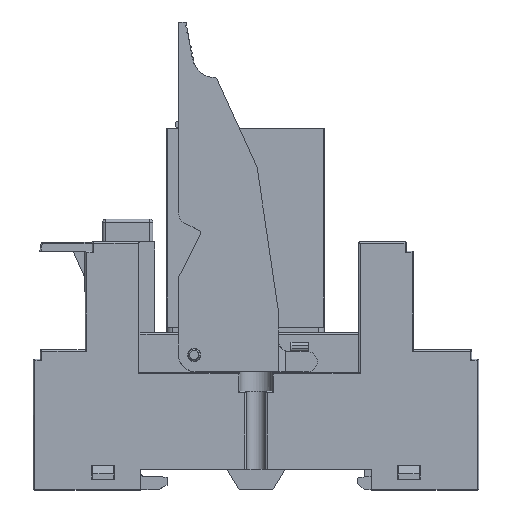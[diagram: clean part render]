
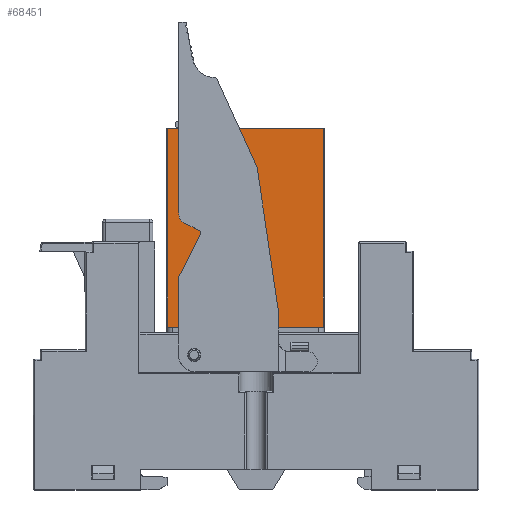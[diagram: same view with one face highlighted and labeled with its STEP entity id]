
A CAD part, top view. The second image highlights one B-rep face of the part: STEP entity #68451.
In plain terms, the highlighted planar face has unit normal (0, 0, 1).
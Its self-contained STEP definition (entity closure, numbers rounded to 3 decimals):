
#538 = EDGE_LOOP ( 'NONE', ( #17843, #36295, #92468, #67705 ) ) ;
#3276 = VECTOR ( 'NONE', #96612, 1000. ) ;
#5055 = VERTEX_POINT ( 'NONE', #64532 ) ;
#6258 = VERTEX_POINT ( 'NONE', #9093 ) ;
#8640 = EDGE_CURVE ( 'NONE', #86713, #57671, #10098, .T. ) ;
#9093 = CARTESIAN_POINT ( 'NONE',  ( 13.6, 34.966, 10.449 ) ) ;
#10098 = LINE ( 'NONE', #69839, #23008 ) ;
#10328 = LINE ( 'NONE', #71513, #29224 ) ;
#13256 = CARTESIAN_POINT ( 'NONE',  ( -13.2, 0.966, 10.449 ) ) ;
#14096 = DIRECTION ( 'NONE',  ( 0., -1., 0. ) ) ;
#15171 = VECTOR ( 'NONE', #55980, 1000. ) ;
#16193 = VERTEX_POINT ( 'NONE', #35027 ) ;
#16474 = VECTOR ( 'NONE', #66522, 1000. ) ;
#17843 = ORIENTED_EDGE ( 'NONE', *, *, #21060, .F. ) ;
#20603 = LINE ( 'NONE', #13256, #60096 ) ;
#21060 = EDGE_CURVE ( 'NONE', #6258, #42312, #74313, .T. ) ;
#21882 = CARTESIAN_POINT ( 'NONE',  ( -1.65, 4.966, 10.449 ) ) ;
#22726 = CARTESIAN_POINT ( 'NONE',  ( -13., 34.966, 10.449 ) ) ;
#22974 = EDGE_CURVE ( 'NONE', #16193, #68819, #56457, .T. ) ;
#23008 = VECTOR ( 'NONE', #90384, 1000. ) ;
#26064 = CARTESIAN_POINT ( 'NONE',  ( 13.8, 2.466, 10.449 ) ) ;
#26597 = EDGE_CURVE ( 'NONE', #68819, #5055, #10328, .T. ) ;
#26745 = CARTESIAN_POINT ( 'NONE',  ( -13., 0.966, 10.449 ) ) ;
#29224 = VECTOR ( 'NONE', #93006, 1000. ) ;
#31124 = EDGE_CURVE ( 'NONE', #5055, #78056, #96114, .T. ) ;
#33320 = ORIENTED_EDGE ( 'NONE', *, *, #80097, .F. ) ;
#35027 = CARTESIAN_POINT ( 'NONE',  ( -1.65, 2.466, 10.449 ) ) ;
#36295 = ORIENTED_EDGE ( 'NONE', *, *, #90734, .F. ) ;
#36485 = FACE_OUTER_BOUND ( 'NONE', #538, .T. ) ;
#38279 = CARTESIAN_POINT ( 'NONE',  ( 2.25, 2.466, 10.449 ) ) ;
#42312 = VERTEX_POINT ( 'NONE', #87609 ) ;
#42409 = DIRECTION ( 'NONE',  ( -1., 0., 0. ) ) ;
#44345 = PLANE ( 'NONE',  #50312 ) ;
#46409 = CARTESIAN_POINT ( 'NONE',  ( 13.6, 34.966, 10.449 ) ) ;
#50312 = AXIS2_PLACEMENT_3D ( 'NONE', #95219, #80578, #42409 ) ;
#54098 = VECTOR ( 'NONE', #76241, 1000. ) ;
#54772 = EDGE_LOOP ( 'NONE', ( #70997, #95340, #33320, #87626 ) ) ;
#55980 = DIRECTION ( 'NONE',  ( 1., 0., 0. ) ) ;
#56457 = LINE ( 'NONE', #26064, #15171 ) ;
#57671 = VERTEX_POINT ( 'NONE', #22726 ) ;
#58997 = CARTESIAN_POINT ( 'NONE',  ( 13.8, 4.966, 10.449 ) ) ;
#60096 = VECTOR ( 'NONE', #80349, 1000. ) ;
#62074 = CARTESIAN_POINT ( 'NONE',  ( -13.2, 34.966, 10.449 ) ) ;
#64532 = CARTESIAN_POINT ( 'NONE',  ( 2.25, 4.966, 10.449 ) ) ;
#65087 = VECTOR ( 'NONE', #14096, 1000. ) ;
#66522 = DIRECTION ( 'NONE',  ( 0., -1., 0. ) ) ;
#66978 = CARTESIAN_POINT ( 'NONE',  ( -1.65, 34.966, 10.449 ) ) ;
#67705 = ORIENTED_EDGE ( 'NONE', *, *, #88648, .T. ) ;
#68451 = ADVANCED_FACE ( 'NONE', ( #36485, #73231 ), #44345, .F. ) ;
#68819 = VERTEX_POINT ( 'NONE', #38279 ) ;
#68896 = LINE ( 'NONE', #62074, #54098 ) ;
#69839 = CARTESIAN_POINT ( 'NONE',  ( -13., 34.966, 10.449 ) ) ;
#70997 = ORIENTED_EDGE ( 'NONE', *, *, #26597, .F. ) ;
#71513 = CARTESIAN_POINT ( 'NONE',  ( 2.25, 34.966, 10.449 ) ) ;
#73231 = FACE_BOUND ( 'NONE', #54772, .T. ) ;
#74282 = LINE ( 'NONE', #66978, #65087 ) ;
#74313 = LINE ( 'NONE', #46409, #16474 ) ;
#76241 = DIRECTION ( 'NONE',  ( 1., 0., 0. ) ) ;
#78056 = VERTEX_POINT ( 'NONE', #21882 ) ;
#80097 = EDGE_CURVE ( 'NONE', #78056, #16193, #74282, .T. ) ;
#80349 = DIRECTION ( 'NONE',  ( 1., 0., 0. ) ) ;
#80578 = DIRECTION ( 'NONE',  ( 0., 0., -1. ) ) ;
#86713 = VERTEX_POINT ( 'NONE', #26745 ) ;
#87609 = CARTESIAN_POINT ( 'NONE',  ( 13.6, 0.966, 10.449 ) ) ;
#87626 = ORIENTED_EDGE ( 'NONE', *, *, #31124, .F. ) ;
#88648 = EDGE_CURVE ( 'NONE', #86713, #42312, #20603, .T. ) ;
#90384 = DIRECTION ( 'NONE',  ( 0., 1., 0. ) ) ;
#90734 = EDGE_CURVE ( 'NONE', #57671, #6258, #68896, .T. ) ;
#92468 = ORIENTED_EDGE ( 'NONE', *, *, #8640, .F. ) ;
#93006 = DIRECTION ( 'NONE',  ( 0., 1., 0. ) ) ;
#95219 = CARTESIAN_POINT ( 'NONE',  ( 13.8, 34.966, 10.449 ) ) ;
#95340 = ORIENTED_EDGE ( 'NONE', *, *, #22974, .F. ) ;
#96114 = LINE ( 'NONE', #58997, #3276 ) ;
#96612 = DIRECTION ( 'NONE',  ( -1., 0., 0. ) ) ;
